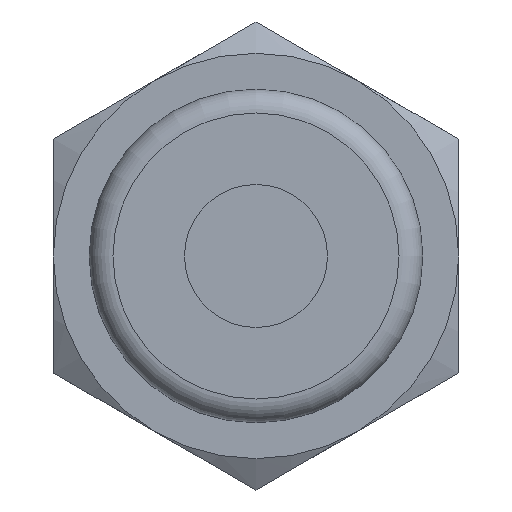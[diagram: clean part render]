
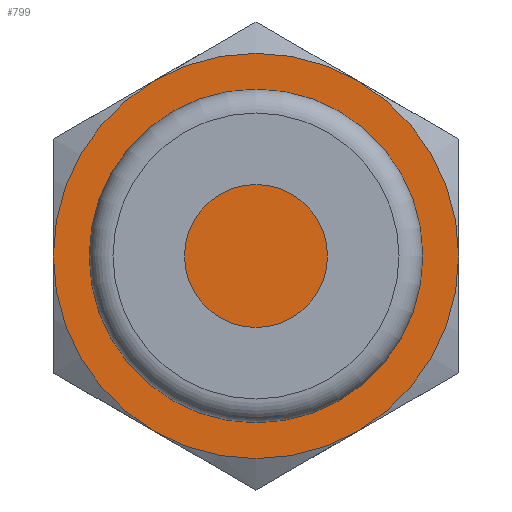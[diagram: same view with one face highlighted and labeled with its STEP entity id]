
A CAD part, front view. The second image highlights one B-rep face of the part: STEP entity #799.
In plain terms, the highlighted planar face has unit normal (0, -1, 0).
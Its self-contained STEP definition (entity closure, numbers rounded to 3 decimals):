
#134=PLANE($,#910);
#214=FACE_OUTER_BOUND($,#294,.T.);
#294=EDGE_LOOP($,(#713,#714,#715,#716,#717,#718));
#333=CIRCLE($,#892,8.5);
#334=CIRCLE($,#894,8.5);
#335=CIRCLE($,#896,8.5);
#336=CIRCLE($,#898,8.5);
#337=CIRCLE($,#900,8.5);
#338=CIRCLE($,#902,8.5);
#396=VERTEX_POINT($,#1390);
#397=VERTEX_POINT($,#1394);
#399=VERTEX_POINT($,#1401);
#401=VERTEX_POINT($,#1411);
#403=VERTEX_POINT($,#1424);
#405=VERTEX_POINT($,#1434);
#489=EDGE_CURVE($,#396,#397,#333,.T.);
#492=EDGE_CURVE($,#399,#396,#334,.T.);
#495=EDGE_CURVE($,#401,#399,#335,.T.);
#497=EDGE_CURVE($,#403,#401,#336,.T.);
#500=EDGE_CURVE($,#405,#403,#337,.T.);
#503=EDGE_CURVE($,#397,#405,#338,.T.);
#713=ORIENTED_EDGE($,*,*,#503,.T.);
#714=ORIENTED_EDGE($,*,*,#500,.T.);
#715=ORIENTED_EDGE($,*,*,#497,.T.);
#716=ORIENTED_EDGE($,*,*,#495,.T.);
#717=ORIENTED_EDGE($,*,*,#492,.T.);
#718=ORIENTED_EDGE($,*,*,#489,.T.);
#799=ADVANCED_FACE($,(#214),#134,.F.);
#892=AXIS2_PLACEMENT_3D($,#1398,#1089,#1090);
#894=AXIS2_PLACEMENT_3D($,#1408,#1093,#1094);
#896=AXIS2_PLACEMENT_3D($,#1418,#1097,#1098);
#898=AXIS2_PLACEMENT_3D($,#1425,#1101,#1102);
#900=AXIS2_PLACEMENT_3D($,#1435,#1105,#1106);
#902=AXIS2_PLACEMENT_3D($,#1444,#1109,#1110);
#910=AXIS2_PLACEMENT_3D($,#1461,#1131,#1132);
#1089=DIRECTION('center_axis',(0.,-1.,0.));
#1090=DIRECTION('ref_axis',(0.,0.,1.));
#1093=DIRECTION('center_axis',(0.,-1.,0.));
#1094=DIRECTION('ref_axis',(0.,0.,1.));
#1097=DIRECTION('center_axis',(0.,-1.,0.));
#1098=DIRECTION('ref_axis',(0.,0.,1.));
#1101=DIRECTION('center_axis',(0.,-1.,0.));
#1102=DIRECTION('ref_axis',(0.,0.,1.));
#1105=DIRECTION('center_axis',(0.,-1.,0.));
#1106=DIRECTION('ref_axis',(0.,0.,1.));
#1109=DIRECTION('center_axis',(0.,-1.,0.));
#1110=DIRECTION('ref_axis',(0.,0.,1.));
#1131=DIRECTION('center_axis',(0.,1.,0.));
#1132=DIRECTION('ref_axis',(0.,0.,1.));
#1390=CARTESIAN_POINT('',(4.25,-23.,-7.361));
#1394=CARTESIAN_POINT('',(8.5,-23.,0.));
#1398=CARTESIAN_POINT('Origin',(0.,-23.,0.));
#1401=CARTESIAN_POINT('',(-4.25,-23.,-7.361));
#1408=CARTESIAN_POINT('Origin',(0.,-23.,0.));
#1411=CARTESIAN_POINT('',(-8.5,-23.,0.));
#1418=CARTESIAN_POINT('Origin',(0.,-23.,0.));
#1424=CARTESIAN_POINT('',(-4.25,-23.,7.361));
#1425=CARTESIAN_POINT('Origin',(0.,-23.,0.));
#1434=CARTESIAN_POINT('',(4.25,-23.,7.361));
#1435=CARTESIAN_POINT('Origin',(0.,-23.,0.));
#1444=CARTESIAN_POINT('Origin',(0.,-23.,0.));
#1461=CARTESIAN_POINT('Origin',(0.,-23.,0.));
